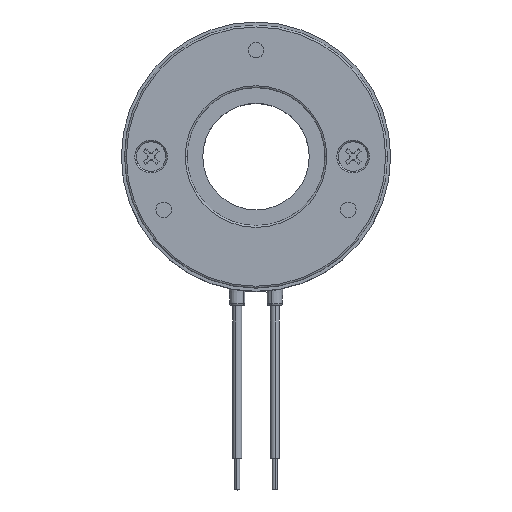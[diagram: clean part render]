
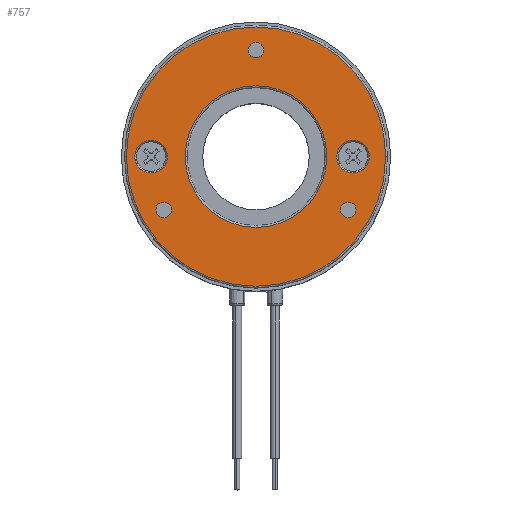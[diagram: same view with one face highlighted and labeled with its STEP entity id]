
A CAD part, top view. The second image highlights one B-rep face of the part: STEP entity #757.
In plain terms, the highlighted planar face has unit normal (0, 0, 1).
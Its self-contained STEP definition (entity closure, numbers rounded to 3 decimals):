
#97 = CIRCLE ( 'NONE', #6019, 1.25 ) ;
#117 = ORIENTED_EDGE ( 'NONE', *, *, #5951, .F. ) ;
#123 = DIRECTION ( 'NONE',  ( 0., 0., 1. ) ) ;
#206 = VERTEX_POINT ( 'NONE', #5079 ) ;
#229 = CIRCLE ( 'NONE', #4156, 2.6 ) ;
#243 = DIRECTION ( 'NONE',  ( 0., 0., -1. ) ) ;
#298 = CARTESIAN_POINT ( 'NONE',  ( 0., 0., 0. ) ) ;
#311 = VERTEX_POINT ( 'NONE', #1353 ) ;
#374 = DIRECTION ( 'NONE',  ( 0., 0., 1. ) ) ;
#397 = DIRECTION ( 'NONE',  ( 1., 0., 0. ) ) ;
#448 = DIRECTION ( 'NONE',  ( -1., 0., 0. ) ) ;
#488 = DIRECTION ( 'NONE',  ( -1., 0., 0. ) ) ;
#499 = EDGE_CURVE ( 'NONE', #2524, #1718, #4289, .T. ) ;
#626 = EDGE_LOOP ( 'NONE', ( #2395, #4846 ) ) ;
#724 = CARTESIAN_POINT ( 'NONE',  ( -14.15, 0., 0. ) ) ;
#757 = ADVANCED_FACE ( 'NONE', ( #2391, #4271, #932, #6089, #902, #3380, #2793 ), #2361, .F. ) ;
#781 = VERTEX_POINT ( 'NONE', #2859 ) ;
#853 = CARTESIAN_POINT ( 'NONE',  ( 0., 17., 0. ) ) ;
#902 = FACE_BOUND ( 'NONE', #5620, .T. ) ;
#932 = FACE_BOUND ( 'NONE', #1388, .T. ) ;
#1141 = CARTESIAN_POINT ( 'NONE',  ( -11.3, 0., 0. ) ) ;
#1219 = CARTESIAN_POINT ( 'NONE',  ( 0., 17., 0. ) ) ;
#1247 = AXIS2_PLACEMENT_3D ( 'NONE', #3264, #5161, #488 ) ;
#1254 = CIRCLE ( 'NONE', #1351, 1.25 ) ;
#1304 = EDGE_CURVE ( 'NONE', #2554, #3691, #229, .T. ) ;
#1348 = DIRECTION ( 'NONE',  ( 1., 0., 0. ) ) ;
#1351 = AXIS2_PLACEMENT_3D ( 'NONE', #853, #3147, #4154 ) ;
#1352 = EDGE_CURVE ( 'NONE', #6037, #311, #2501, .T. ) ;
#1353 = CARTESIAN_POINT ( 'NONE',  ( 18.1, 0., 0. ) ) ;
#1365 = DIRECTION ( 'NONE',  ( 0., 0., -1. ) ) ;
#1388 = EDGE_LOOP ( 'NONE', ( #2102, #2578 ) ) ;
#1434 = DIRECTION ( 'NONE',  ( 1., 0., 0. ) ) ;
#1445 = CARTESIAN_POINT ( 'NONE',  ( 12.9, 0., 0. ) ) ;
#1576 = CARTESIAN_POINT ( 'NONE',  ( 11.3, 0., 0. ) ) ;
#1602 = EDGE_CURVE ( 'NONE', #3928, #781, #4685, .T. ) ;
#1616 = VERTEX_POINT ( 'NONE', #5088 ) ;
#1696 = DIRECTION ( 'NONE',  ( 1., 0., 0. ) ) ;
#1718 = VERTEX_POINT ( 'NONE', #1141 ) ;
#1834 = DIRECTION ( 'NONE',  ( 0., 0., 1. ) ) ;
#1913 = EDGE_CURVE ( 'NONE', #311, #6037, #3832, .T. ) ;
#1953 = CIRCLE ( 'NONE', #4921, 20.7 ) ;
#1962 = CARTESIAN_POINT ( 'NONE',  ( 14.722, -8.5, 0. ) ) ;
#1976 = ORIENTED_EDGE ( 'NONE', *, *, #4449, .F. ) ;
#2102 = ORIENTED_EDGE ( 'NONE', *, *, #5806, .F. ) ;
#2119 = DIRECTION ( 'NONE',  ( -1., 0., 0. ) ) ;
#2210 = DIRECTION ( 'NONE',  ( 1., 0., 0. ) ) ;
#2256 = CARTESIAN_POINT ( 'NONE',  ( -14.722, -8.5, 0. ) ) ;
#2297 = DIRECTION ( 'NONE',  ( 0., 0., 1. ) ) ;
#2345 = CIRCLE ( 'NONE', #4733, 1.25 ) ;
#2361 = PLANE ( 'NONE',  #3198 ) ;
#2391 = FACE_BOUND ( 'NONE', #626, .T. ) ;
#2395 = ORIENTED_EDGE ( 'NONE', *, *, #5782, .T. ) ;
#2423 = CARTESIAN_POINT ( 'NONE',  ( 0., 11., 0. ) ) ;
#2478 = CARTESIAN_POINT ( 'NONE',  ( 0., 0., 0. ) ) ;
#2501 = CIRCLE ( 'NONE', #4057, 2.6 ) ;
#2524 = VERTEX_POINT ( 'NONE', #1576 ) ;
#2554 = VERTEX_POINT ( 'NONE', #3544 ) ;
#2578 = ORIENTED_EDGE ( 'NONE', *, *, #1304, .F. ) ;
#2640 = CIRCLE ( 'NONE', #3429, 1.25 ) ;
#2678 = DIRECTION ( 'NONE',  ( 0., 0., 1. ) ) ;
#2793 = FACE_BOUND ( 'NONE', #5094, .T. ) ;
#2859 = CARTESIAN_POINT ( 'NONE',  ( 20.7, 0., 0. ) ) ;
#3038 = AXIS2_PLACEMENT_3D ( 'NONE', #2256, #4709, #6105 ) ;
#3070 = EDGE_LOOP ( 'NONE', ( #117, #4849 ) ) ;
#3119 = CARTESIAN_POINT ( 'NONE',  ( 15.5, 0., 0. ) ) ;
#3121 = CARTESIAN_POINT ( 'NONE',  ( -16.75, 0., 0. ) ) ;
#3147 = DIRECTION ( 'NONE',  ( 0., 0., 1. ) ) ;
#3198 = AXIS2_PLACEMENT_3D ( 'NONE', #2423, #1365, #448 ) ;
#3225 = CARTESIAN_POINT ( 'NONE',  ( 14.722, -8.5, 0. ) ) ;
#3264 = CARTESIAN_POINT ( 'NONE',  ( 0., 0., 0. ) ) ;
#3292 = CARTESIAN_POINT ( 'NONE',  ( -16.75, 0., 0. ) ) ;
#3357 = CARTESIAN_POINT ( 'NONE',  ( -1.25, 17., 0. ) ) ;
#3379 = CARTESIAN_POINT ( 'NONE',  ( -20.7, 0., 0. ) ) ;
#3380 = FACE_BOUND ( 'NONE', #3070, .T. ) ;
#3386 = DIRECTION ( 'NONE',  ( 0., 0., 1. ) ) ;
#3425 = DIRECTION ( 'NONE',  ( 0., 0., 1. ) ) ;
#3429 = AXIS2_PLACEMENT_3D ( 'NONE', #3225, #1834, #6123 ) ;
#3476 = CARTESIAN_POINT ( 'NONE',  ( 1.25, 17., 0. ) ) ;
#3521 = CIRCLE ( 'NONE', #1247, 11.3 ) ;
#3544 = CARTESIAN_POINT ( 'NONE',  ( -19.35, 0., 0. ) ) ;
#3641 = VERTEX_POINT ( 'NONE', #3476 ) ;
#3691 = VERTEX_POINT ( 'NONE', #724 ) ;
#3729 = ORIENTED_EDGE ( 'NONE', *, *, #4330, .F. ) ;
#3832 = CIRCLE ( 'NONE', #4429, 2.6 ) ;
#3883 = CARTESIAN_POINT ( 'NONE',  ( 0., 0., 0. ) ) ;
#3928 = VERTEX_POINT ( 'NONE', #3379 ) ;
#4013 = CIRCLE ( 'NONE', #3038, 1.25 ) ;
#4057 = AXIS2_PLACEMENT_3D ( 'NONE', #4309, #3386, #1434 ) ;
#4076 = DIRECTION ( 'NONE',  ( -1., 0., 0. ) ) ;
#4154 = DIRECTION ( 'NONE',  ( 1., 0., 0. ) ) ;
#4156 = AXIS2_PLACEMENT_3D ( 'NONE', #3292, #123, #5188 ) ;
#4170 = ORIENTED_EDGE ( 'NONE', *, *, #5671, .T. ) ;
#4211 = CIRCLE ( 'NONE', #5419, 2.6 ) ;
#4271 = FACE_OUTER_BOUND ( 'NONE', #5579, .T. ) ;
#4280 = AXIS2_PLACEMENT_3D ( 'NONE', #298, #4557, #4076 ) ;
#4289 = CIRCLE ( 'NONE', #4984, 11.3 ) ;
#4291 = DIRECTION ( 'NONE',  ( -1., 0., 0. ) ) ;
#4309 = CARTESIAN_POINT ( 'NONE',  ( 15.5, 0., 0. ) ) ;
#4330 = EDGE_CURVE ( 'NONE', #5098, #3641, #1254, .T. ) ;
#4360 = EDGE_CURVE ( 'NONE', #206, #1616, #2345, .T. ) ;
#4429 = AXIS2_PLACEMENT_3D ( 'NONE', #3119, #374, #1348 ) ;
#4449 = EDGE_CURVE ( 'NONE', #5800, #5239, #2640, .T. ) ;
#4549 = EDGE_LOOP ( 'NONE', ( #5619, #5148 ) ) ;
#4557 = DIRECTION ( 'NONE',  ( 0., 0., 1. ) ) ;
#4636 = DIRECTION ( 'NONE',  ( 0., 0., 1. ) ) ;
#4685 = CIRCLE ( 'NONE', #4280, 20.7 ) ;
#4709 = DIRECTION ( 'NONE',  ( 0., 0., 1. ) ) ;
#4733 = AXIS2_PLACEMENT_3D ( 'NONE', #6070, #4636, #397 ) ;
#4737 = ORIENTED_EDGE ( 'NONE', *, *, #4833, .F. ) ;
#4824 = AXIS2_PLACEMENT_3D ( 'NONE', #1962, #2297, #5626 ) ;
#4833 = EDGE_CURVE ( 'NONE', #3641, #5098, #97, .T. ) ;
#4846 = ORIENTED_EDGE ( 'NONE', *, *, #499, .T. ) ;
#4849 = ORIENTED_EDGE ( 'NONE', *, *, #4360, .F. ) ;
#4921 = AXIS2_PLACEMENT_3D ( 'NONE', #2478, #3425, #4291 ) ;
#4983 = CARTESIAN_POINT ( 'NONE',  ( 15.972, -8.5, 0. ) ) ;
#4984 = AXIS2_PLACEMENT_3D ( 'NONE', #3883, #243, #2119 ) ;
#5006 = CIRCLE ( 'NONE', #4824, 1.25 ) ;
#5079 = CARTESIAN_POINT ( 'NONE',  ( -15.972, -8.5, 0. ) ) ;
#5088 = CARTESIAN_POINT ( 'NONE',  ( -13.472, -8.5, 0. ) ) ;
#5094 = EDGE_LOOP ( 'NONE', ( #4737, #3729 ) ) ;
#5098 = VERTEX_POINT ( 'NONE', #3357 ) ;
#5148 = ORIENTED_EDGE ( 'NONE', *, *, #1352, .F. ) ;
#5161 = DIRECTION ( 'NONE',  ( 0., 0., -1. ) ) ;
#5188 = DIRECTION ( 'NONE',  ( 1., 0., 0. ) ) ;
#5239 = VERTEX_POINT ( 'NONE', #5797 ) ;
#5257 = ORIENTED_EDGE ( 'NONE', *, *, #5607, .F. ) ;
#5324 = ORIENTED_EDGE ( 'NONE', *, *, #1602, .T. ) ;
#5419 = AXIS2_PLACEMENT_3D ( 'NONE', #3121, #5430, #1696 ) ;
#5430 = DIRECTION ( 'NONE',  ( 0., 0., 1. ) ) ;
#5579 = EDGE_LOOP ( 'NONE', ( #5324, #4170 ) ) ;
#5607 = EDGE_CURVE ( 'NONE', #5239, #5800, #5006, .T. ) ;
#5619 = ORIENTED_EDGE ( 'NONE', *, *, #1913, .F. ) ;
#5620 = EDGE_LOOP ( 'NONE', ( #1976, #5257 ) ) ;
#5626 = DIRECTION ( 'NONE',  ( 1., 0., 0. ) ) ;
#5671 = EDGE_CURVE ( 'NONE', #781, #3928, #1953, .T. ) ;
#5782 = EDGE_CURVE ( 'NONE', #1718, #2524, #3521, .T. ) ;
#5797 = CARTESIAN_POINT ( 'NONE',  ( 13.472, -8.5, 0. ) ) ;
#5800 = VERTEX_POINT ( 'NONE', #4983 ) ;
#5806 = EDGE_CURVE ( 'NONE', #3691, #2554, #4211, .T. ) ;
#5951 = EDGE_CURVE ( 'NONE', #1616, #206, #4013, .T. ) ;
#6019 = AXIS2_PLACEMENT_3D ( 'NONE', #1219, #2678, #2210 ) ;
#6037 = VERTEX_POINT ( 'NONE', #1445 ) ;
#6070 = CARTESIAN_POINT ( 'NONE',  ( -14.722, -8.5, 0. ) ) ;
#6089 = FACE_BOUND ( 'NONE', #4549, .T. ) ;
#6105 = DIRECTION ( 'NONE',  ( 1., 0., 0. ) ) ;
#6123 = DIRECTION ( 'NONE',  ( 1., 0., 0. ) ) ;
